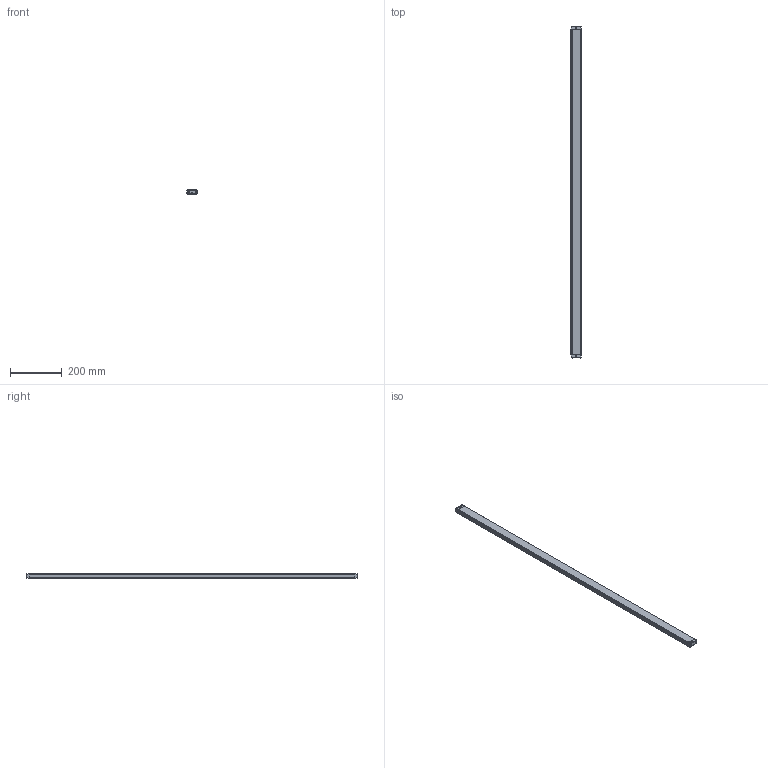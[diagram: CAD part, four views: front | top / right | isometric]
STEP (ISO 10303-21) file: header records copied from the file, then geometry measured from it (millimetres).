
FILE_DESCRIPTION((''),'2;1');
FILE_NAME('EB15--3610_ASM','2021-07-22T11:32:53',('18720616900'),(''),'CREO PARAMETRIC BY PTC INC, 2019010','CREO PARAMETRIC BY PTC INC, 2019010','');
FILE_SCHEMA(('CONFIG_CONTROL_DESIGN'));
Length unit declared in the file: millimetre
Products named in the file (6): EB15-00; EB15-000; EB15-0003; EB15-0004; ST-3-12; EB15--3610_ASM
Assembly tree (12 placements, depth 2):
  EB15--3610_ASM
    EB15-00
    EB15-000
    EB15-0003
    EB15-0004
    ST-3-12  x8
Bounding box: 39.15 x 1285 x 15.79 mm (x, y, z)
Volume: 772554.6 mm3; surface area: 185731 mm2
Topology: 12 solids, 12 shells, 827 faces, 2188 edges, 1368 vertices
Faces by surface type: plane 242, bspline 188, cone 176, cylinder 165, torus 40, sphere 16
Entity records: 16044 total; most frequent: CARTESIAN_POINT 7660, ORIENTED_EDGE 1804, DIRECTION 1603, EDGE_CURVE 902, AXIS2_PLACEMENT_3D 577, VERTEX_POINT 563, VECTOR 449, LINE 449
